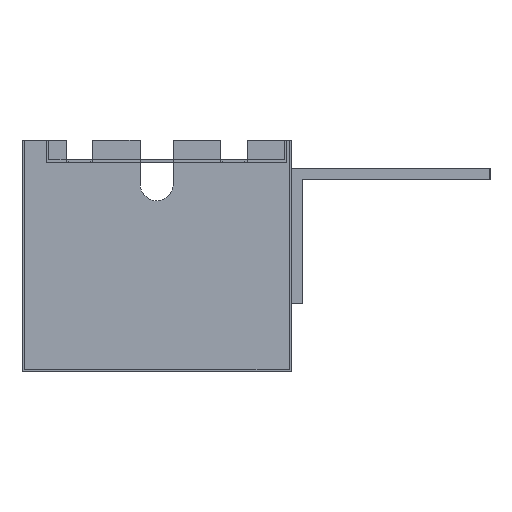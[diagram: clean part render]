
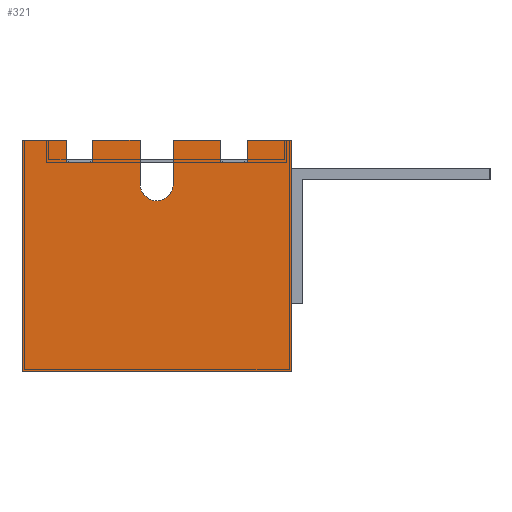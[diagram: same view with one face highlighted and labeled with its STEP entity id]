
A CAD part, left-side view. The second image highlights one B-rep face of the part: STEP entity #321.
In plain terms, the highlighted planar face has unit normal (-1, 0, 0).
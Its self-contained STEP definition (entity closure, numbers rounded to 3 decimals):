
#321 = ADVANCED_FACE( '', ( #626 ), #627, .F. );
#626 = FACE_OUTER_BOUND( '', #916, .T. );
#627 = PLANE( '', #917 );
#916 = EDGE_LOOP( '', ( #1632, #1633, #1634, #1635, #1636, #1637, #1638, #1639, #1640, #1641, #1642, #1643, #1644, #1645, #1646, #1647 ) );
#917 = AXIS2_PLACEMENT_3D( '', #1648, #1649, #1650 );
#1632 = ORIENTED_EDGE( '', *, *, #1830, .F. );
#1633 = ORIENTED_EDGE( '', *, *, #1979, .F. );
#1634 = ORIENTED_EDGE( '', *, *, #1942, .F. );
#1635 = ORIENTED_EDGE( '', *, *, #2063, .F. );
#1636 = ORIENTED_EDGE( '', *, *, #2064, .F. );
#1637 = ORIENTED_EDGE( '', *, *, #1881, .F. );
#1638 = ORIENTED_EDGE( '', *, *, #1776, .F. );
#1639 = ORIENTED_EDGE( '', *, *, #2044, .F. );
#1640 = ORIENTED_EDGE( '', *, *, #2065, .F. );
#1641 = ORIENTED_EDGE( '', *, *, #2024, .F. );
#1642 = ORIENTED_EDGE( '', *, *, #1970, .F. );
#1643 = ORIENTED_EDGE( '', *, *, #2011, .F. );
#1644 = ORIENTED_EDGE( '', *, *, #1795, .F. );
#1645 = ORIENTED_EDGE( '', *, *, #1934, .T. );
#1646 = ORIENTED_EDGE( '', *, *, #2016, .F. );
#1647 = ORIENTED_EDGE( '', *, *, #1904, .F. );
#1648 = CARTESIAN_POINT( '', ( -74.5, 81., -7. ) );
#1649 = DIRECTION( '', ( 1., 0., 0. ) );
#1650 = DIRECTION( '', ( 0., 0., -1. ) );
#1776 = EDGE_CURVE( '', #2101, #2102, #2103, .T. );
#1795 = EDGE_CURVE( '', #2137, #2139, #2140, .T. );
#1830 = EDGE_CURVE( '', #2200, #2202, #2203, .T. );
#1881 = EDGE_CURVE( '', #2102, #2288, #2289, .T. );
#1904 = EDGE_CURVE( '', #2202, #2323, #2324, .T. );
#1934 = EDGE_CURVE( '', #2137, #2369, #2371, .T. );
#1942 = EDGE_CURVE( '', #2382, #2384, #2385, .T. );
#1970 = EDGE_CURVE( '', #2420, #2422, #2423, .T. );
#1979 = EDGE_CURVE( '', #2384, #2200, #2434, .T. );
#2011 = EDGE_CURVE( '', #2139, #2420, #2477, .T. );
#2016 = EDGE_CURVE( '', #2323, #2369, #2483, .T. );
#2024 = EDGE_CURVE( '', #2422, #2492, #2493, .T. );
#2044 = EDGE_CURVE( '', #2516, #2101, #2518, .T. );
#2063 = EDGE_CURVE( '', #2537, #2382, #2538, .T. );
#2064 = EDGE_CURVE( '', #2288, #2537, #2539, .T. );
#2065 = EDGE_CURVE( '', #2492, #2516, #2540, .T. );
#2101 = VERTEX_POINT( '', #2584 );
#2102 = VERTEX_POINT( '', #2585 );
#2103 = LINE( '', #2586, #2587 );
#2137 = VERTEX_POINT( '', #2633 );
#2139 = VERTEX_POINT( '', #2636 );
#2140 = LINE( '', #2637, #2638 );
#2200 = VERTEX_POINT( '', #2722 );
#2202 = VERTEX_POINT( '', #2725 );
#2203 = LINE( '', #2726, #2727 );
#2288 = VERTEX_POINT( '', #2850 );
#2289 = LINE( '', #2851, #2852 );
#2323 = VERTEX_POINT( '', #2903 );
#2324 = LINE( '', #2904, #2905 );
#2369 = VERTEX_POINT( '', #2971 );
#2371 = CIRCLE( '', #2974, 7.5 );
#2382 = VERTEX_POINT( '', #2989 );
#2384 = VERTEX_POINT( '', #2992 );
#2385 = LINE( '', #2993, #2994 );
#2420 = VERTEX_POINT( '', #3047 );
#2422 = VERTEX_POINT( '', #3050 );
#2423 = LINE( '', #3051, #3052 );
#2434 = LINE( '', #3066, #3067 );
#2477 = LINE( '', #3124, #3125 );
#2483 = LINE( '', #3133, #3134 );
#2492 = VERTEX_POINT( '', #3146 );
#2493 = LINE( '', #3147, #3148 );
#2516 = VERTEX_POINT( '', #3183 );
#2518 = LINE( '', #3186, #3187 );
#2537 = VERTEX_POINT( '', #3216 );
#2538 = LINE( '', #3217, #3218 );
#2539 = LINE( '', #3219, #3220 );
#2540 = LINE( '', #3221, #3222 );
#2584 = CARTESIAN_POINT( '', ( -74.5, 20., 13. ) );
#2585 = CARTESIAN_POINT( '', ( -74.5, 20., -92. ) );
#2586 = CARTESIAN_POINT( '', ( -74.5, 20., 13. ) );
#2587 = VECTOR( '', #3250, 1000. );
#2633 = CARTESIAN_POINT( '', ( -74.5, 73.5, -7. ) );
#2636 = CARTESIAN_POINT( '', ( -74.5, 73.5, 13. ) );
#2637 = CARTESIAN_POINT( '', ( -74.5, 73.5, -7. ) );
#2638 = VECTOR( '', #3276, 1000. );
#2722 = CARTESIAN_POINT( '', ( -74.5, 110., 3. ) );
#2725 = CARTESIAN_POINT( '', ( -74.5, 110., 13. ) );
#2726 = CARTESIAN_POINT( '', ( -74.5, 110., 3. ) );
#2727 = VECTOR( '', #3314, 1000. );
#2850 = CARTESIAN_POINT( '', ( -74.5, 142., -92. ) );
#2851 = CARTESIAN_POINT( '', ( -74.5, 20., -92. ) );
#2852 = VECTOR( '', #3362, 1000. );
#2903 = CARTESIAN_POINT( '', ( -74.5, 88.5, 13. ) );
#2904 = CARTESIAN_POINT( '', ( -74.5, 110., 13. ) );
#2905 = VECTOR( '', #3380, 1000. );
#2971 = CARTESIAN_POINT( '', ( -74.5, 88.5, -7. ) );
#2974 = AXIS2_PLACEMENT_3D( '', #3409, #3410, #3411 );
#2989 = CARTESIAN_POINT( '', ( -74.5, 122., 13. ) );
#2992 = CARTESIAN_POINT( '', ( -74.5, 122., 3. ) );
#2993 = CARTESIAN_POINT( '', ( -74.5, 122., 13. ) );
#2994 = VECTOR( '', #3417, 1000. );
#3047 = CARTESIAN_POINT( '', ( -74.5, 52., 13. ) );
#3050 = CARTESIAN_POINT( '', ( -74.5, 52., 3. ) );
#3051 = CARTESIAN_POINT( '', ( -74.5, 52., 13. ) );
#3052 = VECTOR( '', #3440, 1000. );
#3066 = CARTESIAN_POINT( '', ( -74.5, 122., 3. ) );
#3067 = VECTOR( '', #3450, 1000. );
#3124 = CARTESIAN_POINT( '', ( -74.5, 73.5, 13. ) );
#3125 = VECTOR( '', #3480, 1000. );
#3133 = CARTESIAN_POINT( '', ( -74.5, 88.5, 13. ) );
#3134 = VECTOR( '', #3483, 1000. );
#3146 = CARTESIAN_POINT( '', ( -74.5, 40., 3. ) );
#3147 = CARTESIAN_POINT( '', ( -74.5, 52., 3. ) );
#3148 = VECTOR( '', #3487, 1000. );
#3183 = CARTESIAN_POINT( '', ( -74.5, 40., 13. ) );
#3186 = CARTESIAN_POINT( '', ( -74.5, 40., 13. ) );
#3187 = VECTOR( '', #3501, 1000. );
#3216 = CARTESIAN_POINT( '', ( -74.5, 142., 13. ) );
#3217 = CARTESIAN_POINT( '', ( -74.5, 142., 13. ) );
#3218 = VECTOR( '', #3512, 1000. );
#3219 = CARTESIAN_POINT( '', ( -74.5, 142., -92. ) );
#3220 = VECTOR( '', #3513, 1000. );
#3221 = CARTESIAN_POINT( '', ( -74.5, 40., 3. ) );
#3222 = VECTOR( '', #3514, 1000. );
#3250 = DIRECTION( '', ( 0., 0., -1. ) );
#3276 = DIRECTION( '', ( 0., 0., 1. ) );
#3314 = DIRECTION( '', ( 0., 0., 1. ) );
#3362 = DIRECTION( '', ( 0., 1., 0. ) );
#3380 = DIRECTION( '', ( 0., -1., 0. ) );
#3409 = CARTESIAN_POINT( '', ( -74.5, 81., -7. ) );
#3410 = DIRECTION( '', ( 1., 0., 0. ) );
#3411 = DIRECTION( '', ( 0., 0., -1. ) );
#3417 = DIRECTION( '', ( 0., 0., -1. ) );
#3440 = DIRECTION( '', ( 0., 0., -1. ) );
#3450 = DIRECTION( '', ( 0., -1., 0. ) );
#3480 = DIRECTION( '', ( 0., -1., 0. ) );
#3483 = DIRECTION( '', ( 0., 0., -1. ) );
#3487 = DIRECTION( '', ( 0., -1., 0. ) );
#3501 = DIRECTION( '', ( 0., -1., 0. ) );
#3512 = DIRECTION( '', ( 0., -1., 0. ) );
#3513 = DIRECTION( '', ( 0., 0., 1. ) );
#3514 = DIRECTION( '', ( 0., 0., 1. ) );
